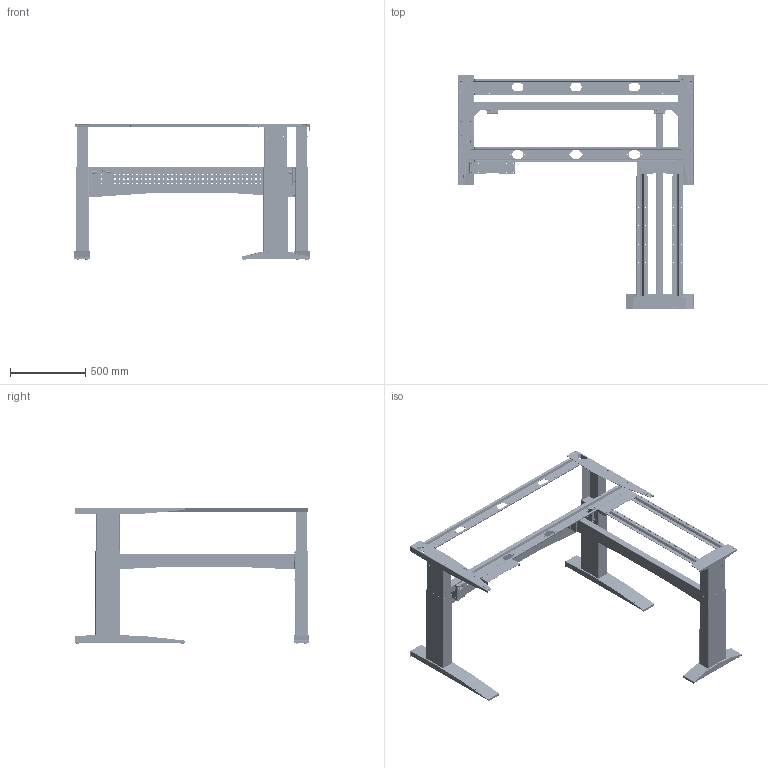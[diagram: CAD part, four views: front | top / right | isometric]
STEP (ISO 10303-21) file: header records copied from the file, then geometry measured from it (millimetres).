
FILE_DESCRIPTION (( 'STEP AP203' ), '1' );
FILE_NAME ('Tech-draw_501-11_XX156-156AR.STEP', '2019-09-24T12:05:35', ( '' ), ( '' ), 'SwSTEP 2.0', 'SolidWorks 2018', '' );
FILE_SCHEMA (( 'CONFIG_CONTROL_DESIGN' ));
Length unit declared in the file: millimetre
Products named in the file (74): 303940_black; 303930_black; 150040; 303520; 303500; 303470; 103360_black; 318550; 103410_black; 112610_black; 112650_black; 303550; 305680_black; 303430_black; 321030; 306980; 304130; 103380_black; 314830; 303560_black; 103350_black; 104000_black; 318510_black; 103370_black; 149590_501-11 XB156-156AR; 303720_black; 318480; 103680_black1; 351820_black; 103670_black1; 303580_black; 103390_black; 304650_black; Weld_09; Tech-draw_501-11_XX156-156AR; 303510; 306550_black; 103490_black1; 345830; 306570_black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
Assembly tree (204 placements, depth 8):
  Tech-draw_501-11_XX156-156AR
    149590_501-11 XB156-156AR
      103680_black1
        103670_black1
          304300_156
          304130  x8
        300600  x6
      104000_black
        103990_black
          103390_black
            103350_black
              103320_black
                303540
                303550
                345830  x2
              303720_black
              303590_black
          103410_black
            103370_black
              303530
              303520
              Weld_09  x2
            303930_black  x6
        304650_black  x6
        303470  x4
        303560_black
        303430_black
        305680_black  x2
        104100_wo wire
          304640
      103490_black
        103470_black
          103380_black
            103340_black
              103320_black
                303540
                303550
                345830  x2
              303580_black
              303590_black
          103400_black
            103360_black
              303530
              303510
              Weld_09  x4
            303930_black  x2
        303940_black
        304650_black  x6
        303470  x4
        305660_black
        305680_black  x2
      113110_black
        112610_black
          303500
          318480  x2
          Weld_01  x4
          304130  x6
        300600  x6
      112650_black
        112630_black
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Bounding box: 1562.5 x 1558.8 x 910.5 mm (x, y, z)
Volume: 7118184.8 mm3; surface area: 8868174.8 mm2
Topology: 183 solids, 183 shells, 7152 faces, 18836 edges, 12238 vertices
Faces by surface type: plane 3577, cylinder 2704, bspline 394, torus 280, cone 173, sphere 24
Full cylindrical faces by diameter (mm): 1.5 x3, 3.2 x6, 3.3 x30, 4 x108, 4.2 x6, 4.5 x38, 5 x74, 5.5 x6, 6 x653, 6.2 x32, 6.4 x10, 6.5 x18, 6.8 x12, 7 x62, 8 x20, 9 x14, 10 x18, 12 x1, 12.1 x2, 12.2 x2, 13 x10, 22 x2, 24 x4, 24.1 x1, 26 x1, 27.6 x2, 27.7 x1, 28 x3, 30 x4, 32 x2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
Entity records: 136483 total; most frequent: CARTESIAN_POINT 32890, DIRECTION 19484, ORIENTED_EDGE 18394, EDGE_CURVE 9197, AXIS2_PLACEMENT_3D 6776, VERTEX_POINT 6145, LINE 5932, VECTOR 5932
